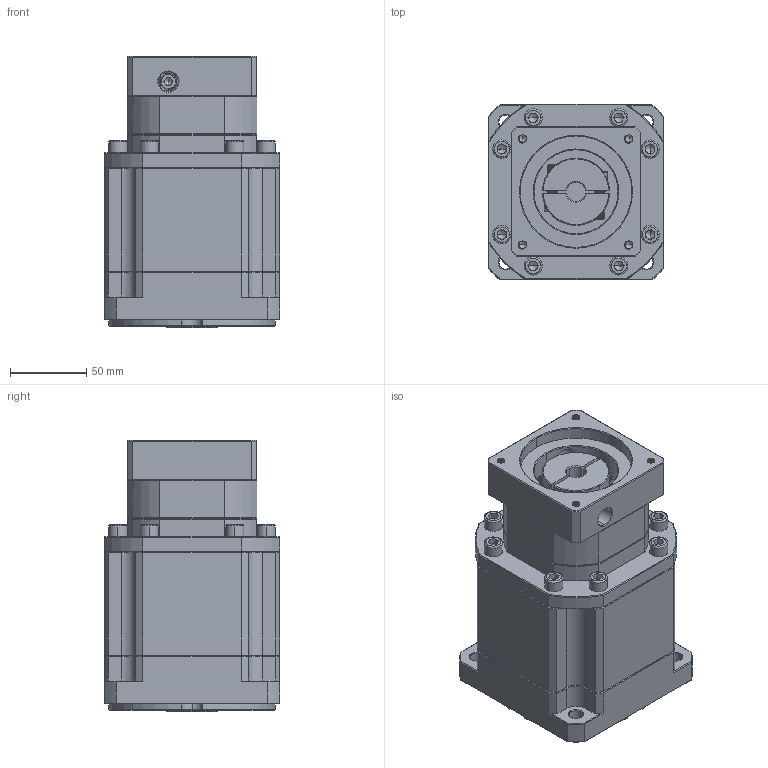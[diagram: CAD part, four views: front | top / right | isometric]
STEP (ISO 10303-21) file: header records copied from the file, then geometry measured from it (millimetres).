
FILE_DESCRIPTION (( 'STEP AP214' ), '1' );
FILE_NAME ('ZB115A-K25-L3-12.7-73-69.5X69.5-M6.step', '2023-03-03T09:58:35', ( '' ), ( 'Microsoft' ), 'SwSTEP 2.0', 'SolidWorks 2016', '' );
FILE_SCHEMA (( 'AUTOMOTIVE_DESIGN' ));
Length unit declared in the file: millimetre
Products named in the file (1): ZB115A-K25-L3-12.7-73-69.5X69.5-M6
Bounding box: 115 x 115 x 177.5 mm (x, y, z)
Volume: 1643554.4 mm3; surface area: 143690.6 mm2
Topology: 5 solids, 6 shells, 2078 faces, 5365 edges, 3384 vertices
Faces by surface type: plane 999, cylinder 393, cone 351, bspline 320, torus 15
Entity records: 106957 total; most frequent: CARTESIAN_POINT 36152, ORIENTED_EDGE 10658, DIRECTION 8797, EDGE_CURVE 5329, VERTEX_POINT 3384, VECTOR 3367, LINE 3367, AXIS2_PLACEMENT_3D 2715
